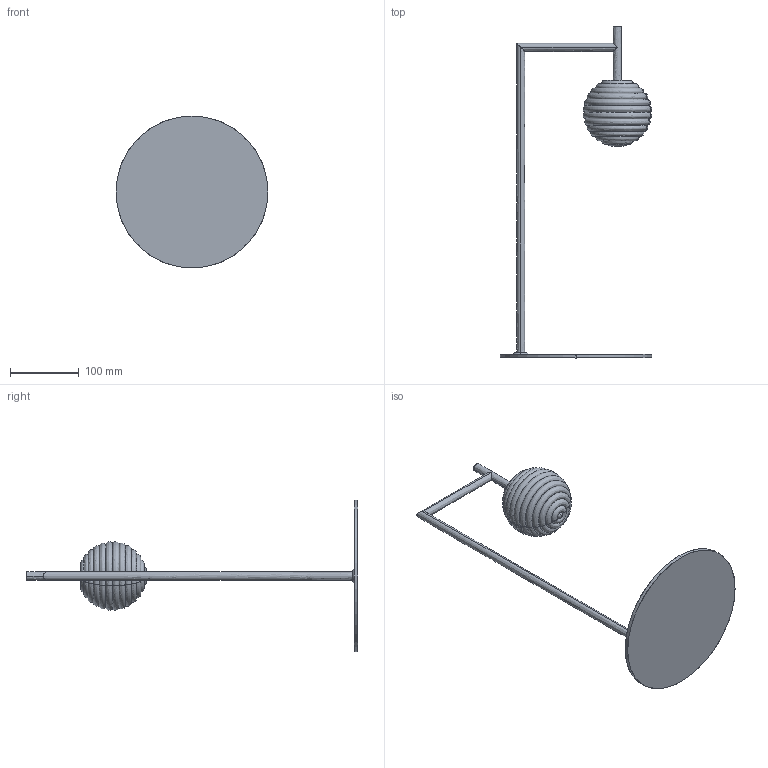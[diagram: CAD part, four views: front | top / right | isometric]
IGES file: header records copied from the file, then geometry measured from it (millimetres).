
Start section: SolidWorks IGES file using analytic representation for surfaces
Global section: file name: C:\Users\Agus\Desktop\NOVEDADES_2023_1\DOUL_1310\S1310\3D\DOUL_S1310.IGS; native system: SolidWorks 2018; preprocessor: SolidWorks 2018; author: Agus; date: 230214.123721; units: millimetre
Bounding box: 220 x 481 x 220 mm (x, y, z)
Surface area: 164919.1 mm2 (no closed solid volume)
Topology: 0 solids, 0 shells, 59 faces, 1040 edges, 1039 vertices
Faces by surface type: bspline 37, revolution 22
